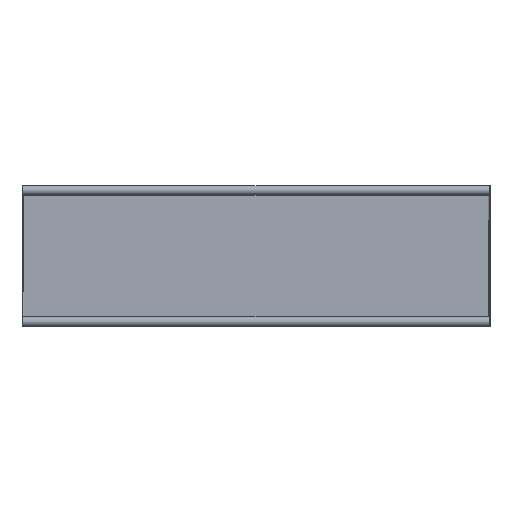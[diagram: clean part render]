
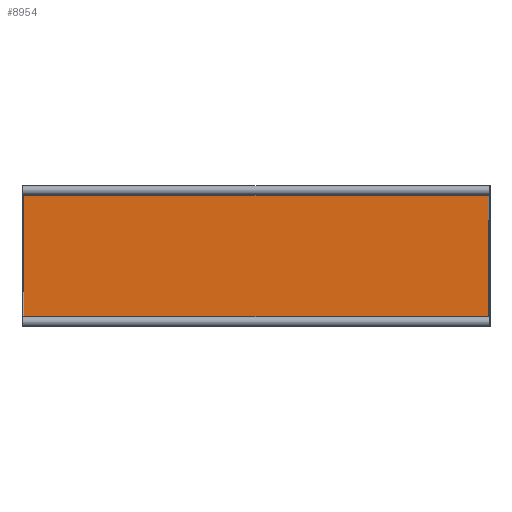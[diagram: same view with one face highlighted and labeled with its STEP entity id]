
A CAD part, front view. The second image highlights one B-rep face of the part: STEP entity #8954.
In plain terms, the highlighted planar face has unit normal (0, -1, 0).
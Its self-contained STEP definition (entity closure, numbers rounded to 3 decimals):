
#404 = AXIS2_PLACEMENT_3D ( 'NONE', #4057, #2365, #5474 ) ;
#942 = CARTESIAN_POINT ( 'NONE',  ( -495., -2., 146. ) ) ;
#989 = DIRECTION ( 'NONE',  ( 0., 0., 1. ) ) ;
#1031 = CIRCLE ( 'NONE', #6731, 5. ) ;
#1041 = ORIENTED_EDGE ( 'NONE', *, *, #7215, .F. ) ;
#1092 = LINE ( 'NONE', #5730, #1371 ) ;
#1114 = CARTESIAN_POINT ( 'NONE',  ( -496., -2., -149. ) ) ;
#1349 = CARTESIAN_POINT ( 'NONE',  ( -496., -2., -145. ) ) ;
#1371 = VECTOR ( 'NONE', #1857, 1000. ) ;
#1568 = EDGE_CURVE ( 'NONE', #8208, #3865, #2450, .T. ) ;
#1574 = CIRCLE ( 'NONE', #9689, 5. ) ;
#1609 = ORIENTED_EDGE ( 'NONE', *, *, #4501, .T. ) ;
#1708 = VECTOR ( 'NONE', #7312, 1000. ) ;
#1718 = DIRECTION ( 'NONE',  ( 0., -1., 0. ) ) ;
#1770 = VERTEX_POINT ( 'NONE', #9635 ) ;
#1857 = DIRECTION ( 'NONE',  ( 1., 0., 0. ) ) ;
#1887 = LINE ( 'NONE', #8084, #1708 ) ;
#2215 = AXIS2_PLACEMENT_3D ( 'NONE', #5729, #7149, #989 ) ;
#2339 = PLANE ( 'NONE',  #3844 ) ;
#2365 = DIRECTION ( 'NONE',  ( 0., -1., 0. ) ) ;
#2450 = LINE ( 'NONE', #1114, #7330 ) ;
#2532 = ORIENTED_EDGE ( 'NONE', *, *, #9760, .F. ) ;
#2605 = DIRECTION ( 'NONE',  ( 0., 0., 1. ) ) ;
#2672 = CARTESIAN_POINT ( 'NONE',  ( -499., -2., -146. ) ) ;
#3342 = DIRECTION ( 'NONE',  ( 1., 0., 0. ) ) ;
#3373 = CARTESIAN_POINT ( 'NONE',  ( -495., -2., -146. ) ) ;
#3564 = EDGE_CURVE ( 'NONE', #8260, #1770, #9496, .T. ) ;
#3743 = ORIENTED_EDGE ( 'NONE', *, *, #3564, .F. ) ;
#3844 = AXIS2_PLACEMENT_3D ( 'NONE', #7769, #6260, #8346 ) ;
#3865 = VERTEX_POINT ( 'NONE', #6397 ) ;
#3961 = CARTESIAN_POINT ( 'NONE',  ( 495., -2., 146. ) ) ;
#4057 = CARTESIAN_POINT ( 'NONE',  ( 499., -2., -149. ) ) ;
#4170 = VECTOR ( 'NONE', #3342, 1000. ) ;
#4240 = EDGE_CURVE ( 'NONE', #6848, #1770, #8723, .T. ) ;
#4501 = EDGE_CURVE ( 'NONE', #8260, #6884, #1887, .T. ) ;
#4734 = ORIENTED_EDGE ( 'NONE', *, *, #4240, .T. ) ;
#4807 = CIRCLE ( 'NONE', #2215, 5. ) ;
#5069 = ORIENTED_EDGE ( 'NONE', *, *, #7968, .F. ) ;
#5219 = EDGE_LOOP ( 'NONE', ( #3743, #1609, #2532, #5069, #1041, #7508, #8294, #4734 ) ) ;
#5416 = EDGE_CURVE ( 'NONE', #6848, #8208, #1574, .T. ) ;
#5474 = DIRECTION ( 'NONE',  ( 0., 0., 1. ) ) ;
#5551 = CARTESIAN_POINT ( 'NONE',  ( 496., -2., 145. ) ) ;
#5645 = VERTEX_POINT ( 'NONE', #942 ) ;
#5729 = CARTESIAN_POINT ( 'NONE',  ( 499., -2., 149. ) ) ;
#5730 = CARTESIAN_POINT ( 'NONE',  ( -499., -2., 146. ) ) ;
#6260 = DIRECTION ( 'NONE',  ( 0., 1., 0. ) ) ;
#6303 = CARTESIAN_POINT ( 'NONE',  ( -499., -2., 149. ) ) ;
#6397 = CARTESIAN_POINT ( 'NONE',  ( -496., -2., 145. ) ) ;
#6731 = AXIS2_PLACEMENT_3D ( 'NONE', #6303, #7811, #7058 ) ;
#6848 = VERTEX_POINT ( 'NONE', #3373 ) ;
#6884 = VERTEX_POINT ( 'NONE', #5551 ) ;
#7058 = DIRECTION ( 'NONE',  ( 0., 0., 1. ) ) ;
#7149 = DIRECTION ( 'NONE',  ( 0., -1., 0. ) ) ;
#7208 = DIRECTION ( 'NONE',  ( 0., 0., 1. ) ) ;
#7215 = EDGE_CURVE ( 'NONE', #3865, #5645, #1031, .T. ) ;
#7312 = DIRECTION ( 'NONE',  ( 0., 0., 1. ) ) ;
#7330 = VECTOR ( 'NONE', #2605, 1000. ) ;
#7508 = ORIENTED_EDGE ( 'NONE', *, *, #1568, .F. ) ;
#7769 = CARTESIAN_POINT ( 'NONE',  ( -499., -2., -149. ) ) ;
#7811 = DIRECTION ( 'NONE',  ( 0., -1., 0. ) ) ;
#7966 = CARTESIAN_POINT ( 'NONE',  ( -499., -2., -149. ) ) ;
#7968 = EDGE_CURVE ( 'NONE', #5645, #10066, #1092, .T. ) ;
#8084 = CARTESIAN_POINT ( 'NONE',  ( 496., -2., -149. ) ) ;
#8208 = VERTEX_POINT ( 'NONE', #1349 ) ;
#8260 = VERTEX_POINT ( 'NONE', #8621 ) ;
#8294 = ORIENTED_EDGE ( 'NONE', *, *, #5416, .F. ) ;
#8346 = DIRECTION ( 'NONE',  ( 0., 0., 1. ) ) ;
#8621 = CARTESIAN_POINT ( 'NONE',  ( 496., -2., -145. ) ) ;
#8723 = LINE ( 'NONE', #2672, #4170 ) ;
#8954 = ADVANCED_FACE ( 'NONE', ( #9923 ), #2339, .F. ) ;
#9496 = CIRCLE ( 'NONE', #404, 5. ) ;
#9635 = CARTESIAN_POINT ( 'NONE',  ( 495., -2., -146. ) ) ;
#9689 = AXIS2_PLACEMENT_3D ( 'NONE', #7966, #1718, #7208 ) ;
#9760 = EDGE_CURVE ( 'NONE', #10066, #6884, #4807, .T. ) ;
#9923 = FACE_OUTER_BOUND ( 'NONE', #5219, .T. ) ;
#10066 = VERTEX_POINT ( 'NONE', #3961 ) ;
